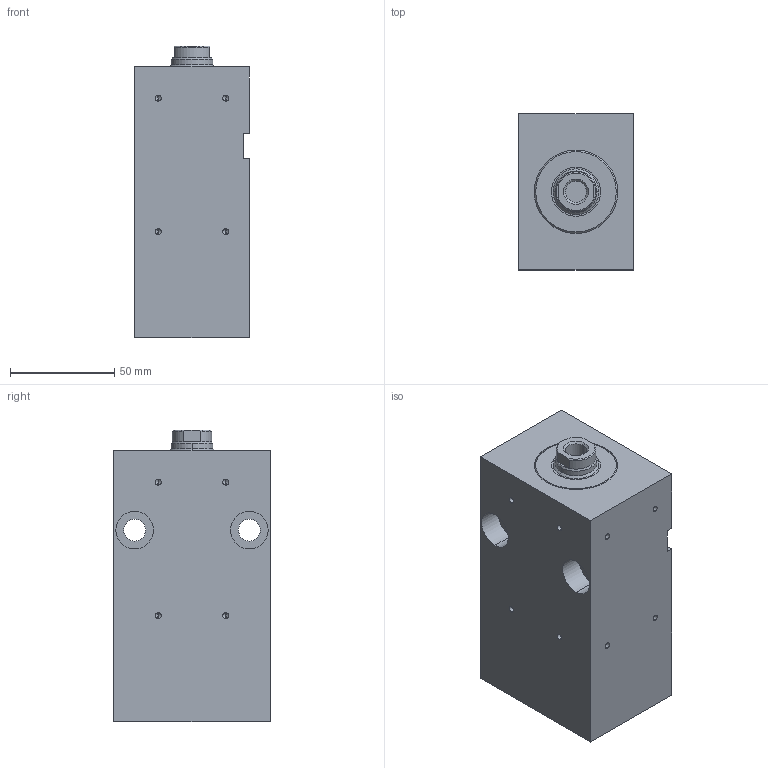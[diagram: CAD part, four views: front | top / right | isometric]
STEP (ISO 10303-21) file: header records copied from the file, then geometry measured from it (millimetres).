
FILE_DESCRIPTION (( 'STEP AP203' ), '1' );
FILE_NAME ('BZ_500.32_20.33.201.080 PP.NS38__DH_0_.STEP', '2022-05-19T11:42:59', ( '' ), ( '' ), 'SwSTEP 2.0', 'SolidWorks 2020', '' );
FILE_SCHEMA (( 'CONFIG_CONTROL_DESIGN' ));
Length unit declared in the file: millimetre
Products named in the file (7): _Kolbenstange komplett f. BZ_RZ_FZ.32_20.xx.201.80(0_11 1 12 1.75 0 0 10 15 0 0 0)0^BZ_500.32_20.33.201.080 PP.NS38__DH_0_(2)_BZ_500.32_20.33.201.080 PP.NS38__DH_0_; _O-Ring 9x2 - Art. 104351^BZ_500.32_20.33.201.080 PP.NS38__DH_0_(2)_BZ_500.32_20.33.201.080 PP.NS38__DH_0_; _Gehaeuse f. BZ500.32_20.33.201.80.N1.m (m = Nut spiegelbildlich38)Nut rechts, Senkungen links00(138frei1330220))7^BZ_500.32_20.33.201.080 PP.NS38__DH_0_(2)_BZ_500.32_20.33.201.080 PP.NS38__DH_0_; _Dichtungssatz f. BZ_RZ_FZ.32_20.xx.201.80 Artikelnr._ 013411(0)^BZ_500.32_20.33.201.080 PP.NS38__DH_0_(2)_BZ_500.32_20.33.201.080 PP.NS38__DH_0_; BZ_500.32_20.33.201.080 PP.NS38__DH_0_; BZ_500.32_20.33.201.080 PP.NS38__DH_0_(2)^BZ_500.32_20.33.201.080 PP.NS38__DH_0_; _Verschraubung komplett mit Dichtung f. BZ_RZ_FZ.32_20.201, Art.-Nr._ 041671(201)^BZ_500.32_20.33.201.080 PP.NS38__DH_0_(2)_BZ_500.32_20.33.201.080 PP.NS38__DH_0_
Assembly tree (7 placements, depth 3):
  BZ_500.32_20.33.201.080 PP.NS38__DH_0_
    BZ_500.32_20.33.201.080 PP.NS38__DH_0_(2)^BZ_500.32_20.33.201.080 PP.NS38__DH_0_
      _Gehaeuse f. BZ500.32_20.33.201.80.N1.m (m = Nut spiegelbildlich38)Nut rechts, Senkungen links00(138frei1330220))7^BZ_500.32_20.33.201.080 PP.NS38__DH_0_(2)_BZ_500.32_20.33.201.080 PP.NS38__DH_0_
      _Verschraubung komplett mit Dichtung f. BZ_RZ_FZ.32_20.201, Art.-Nr._ 041671(201)^BZ_500.32_20.33.201.080 PP.NS38__DH_0_(2)_BZ_500.32_20.33.201.080 PP.NS38__DH_0_
      _Dichtungssatz f. BZ_RZ_FZ.32_20.xx.201.80 Artikelnr._ 013411(0)^BZ_500.32_20.33.201.080 PP.NS38__DH_0_(2)_BZ_500.32_20.33.201.080 PP.NS38__DH_0_
      _Kolbenstange komplett f. BZ_RZ_FZ.32_20.xx.201.80(0_11 1 12 1.75 0 0 10 15 0 0 0)0^BZ_500.32_20.33.201.080 PP.NS38__DH_0_(2)_BZ_500.32_20.33.201.080 PP.NS38__DH_0_
      _O-Ring 9x2 - Art. 104351^BZ_500.32_20.33.201.080 PP.NS38__DH_0_(2)_BZ_500.32_20.33.201.080 PP.NS38__DH_0_  x2
Bounding box: 55 x 75 x 140 mm (x, y, z)
Volume: 481259 mm3; surface area: 79381.9 mm2
Topology: 6 solids, 6 shells, 154 faces, 353 edges, 209 vertices
Faces by surface type: cylinder 70, plane 38, cone 34, torus 12
Entity records: 4834 total; most frequent: DIRECTION 783, CARTESIAN_POINT 727, ORIENTED_EDGE 626, AXIS2_PLACEMENT_3D 323, EDGE_CURVE 313, VERTEX_POINT 199, EDGE_LOOP 182, CIRCLE 166
